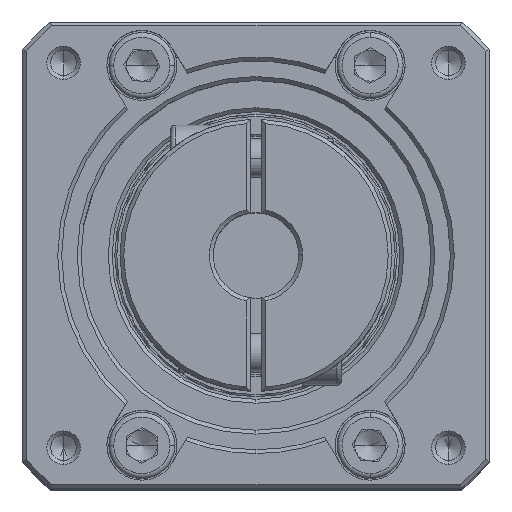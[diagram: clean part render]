
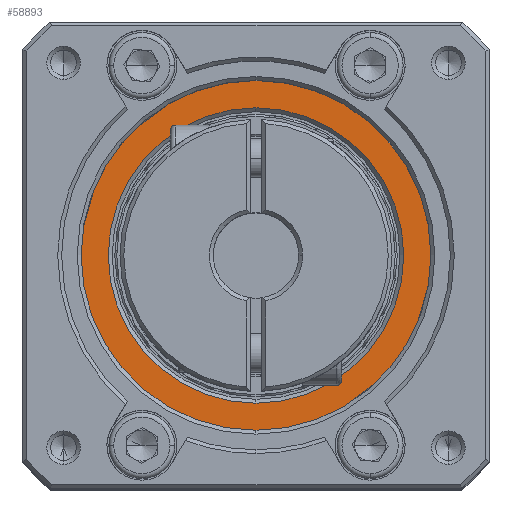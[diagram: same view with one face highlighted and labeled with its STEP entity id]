
A CAD part, top view. The second image highlights one B-rep face of the part: STEP entity #58893.
In plain terms, the highlighted planar face has unit normal (0, 0, 1).
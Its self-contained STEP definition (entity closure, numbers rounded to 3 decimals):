
#2808 = DIRECTION ( 'NONE',  ( 0., -1., 0. ) ) ;
#3256 = AXIS2_PLACEMENT_3D ( 'NONE', #6527, #29673, #104054 ) ;
#4265 = VERTEX_POINT ( 'NONE', #24662 ) ;
#4926 = EDGE_LOOP ( 'NONE', ( #15494, #10164 ) ) ;
#5352 = CARTESIAN_POINT ( 'NONE',  ( -41.834, 41.744, 1.952 ) ) ;
#6527 = CARTESIAN_POINT ( 'NONE',  ( -41.834, 22.744, 1.952 ) ) ;
#8427 = EDGE_CURVE ( 'NONE', #22759, #67065, #100596, .T. ) ;
#10164 = ORIENTED_EDGE ( 'NONE', *, *, #37781, .T. ) ;
#12262 = CARTESIAN_POINT ( 'NONE',  ( -41.834, 0.244, 1.952 ) ) ;
#15494 = ORIENTED_EDGE ( 'NONE', *, *, #71122, .T. ) ;
#16814 = EDGE_CURVE ( 'NONE', #67065, #22759, #88474, .T. ) ;
#17060 = CIRCLE ( 'NONE', #34490, 19. ) ;
#22759 = VERTEX_POINT ( 'NONE', #12262 ) ;
#24139 = DIRECTION ( 'NONE',  ( 0., -1., 0. ) ) ;
#24522 = AXIS2_PLACEMENT_3D ( 'NONE', #32969, #97770, #24139 ) ;
#24540 = CARTESIAN_POINT ( 'NONE',  ( -41.834, 22.744, 1.952 ) ) ;
#24662 = CARTESIAN_POINT ( 'NONE',  ( -41.834, 3.744, 1.952 ) ) ;
#26772 = ORIENTED_EDGE ( 'NONE', *, *, #16814, .T. ) ;
#27664 = CARTESIAN_POINT ( 'NONE',  ( -41.834, 45.244, 1.952 ) ) ;
#29673 = DIRECTION ( 'NONE',  ( 0., 0., 1. ) ) ;
#30376 = EDGE_LOOP ( 'NONE', ( #98141, #26772 ) ) ;
#32969 = CARTESIAN_POINT ( 'NONE',  ( -41.834, 22.744, 1.952 ) ) ;
#34490 = AXIS2_PLACEMENT_3D ( 'NONE', #91889, #51487, #2808 ) ;
#37781 = EDGE_CURVE ( 'NONE', #44601, #4265, #17060, .T. ) ;
#39266 = DIRECTION ( 'NONE',  ( 0., 0., 1. ) ) ;
#40073 = PLANE ( 'NONE',  #24522 ) ;
#44601 = VERTEX_POINT ( 'NONE', #5352 ) ;
#44758 = FACE_BOUND ( 'NONE', #4926, .T. ) ;
#46723 = DIRECTION ( 'NONE',  ( 0., -1., 0. ) ) ;
#51487 = DIRECTION ( 'NONE',  ( 0., 0., -1. ) ) ;
#58735 = CIRCLE ( 'NONE', #64553, 19. ) ;
#58893 = ADVANCED_FACE ( 'NONE', ( #44758, #70012 ), #40073, .T. ) ;
#64553 = AXIS2_PLACEMENT_3D ( 'NONE', #24540, #74054, #65546 ) ;
#65546 = DIRECTION ( 'NONE',  ( 0., -1., 0. ) ) ;
#67065 = VERTEX_POINT ( 'NONE', #27664 ) ;
#68781 = AXIS2_PLACEMENT_3D ( 'NONE', #95267, #39266, #46723 ) ;
#70012 = FACE_OUTER_BOUND ( 'NONE', #30376, .T. ) ;
#71122 = EDGE_CURVE ( 'NONE', #4265, #44601, #58735, .T. ) ;
#74054 = DIRECTION ( 'NONE',  ( 0., 0., -1. ) ) ;
#88474 = CIRCLE ( 'NONE', #3256, 22.5 ) ;
#91889 = CARTESIAN_POINT ( 'NONE',  ( -41.834, 22.744, 1.952 ) ) ;
#95267 = CARTESIAN_POINT ( 'NONE',  ( -41.834, 22.744, 1.952 ) ) ;
#97770 = DIRECTION ( 'NONE',  ( 0., 0., 1. ) ) ;
#98141 = ORIENTED_EDGE ( 'NONE', *, *, #8427, .T. ) ;
#100596 = CIRCLE ( 'NONE', #68781, 22.5 ) ;
#104054 = DIRECTION ( 'NONE',  ( 0., -1., 0. ) ) ;
